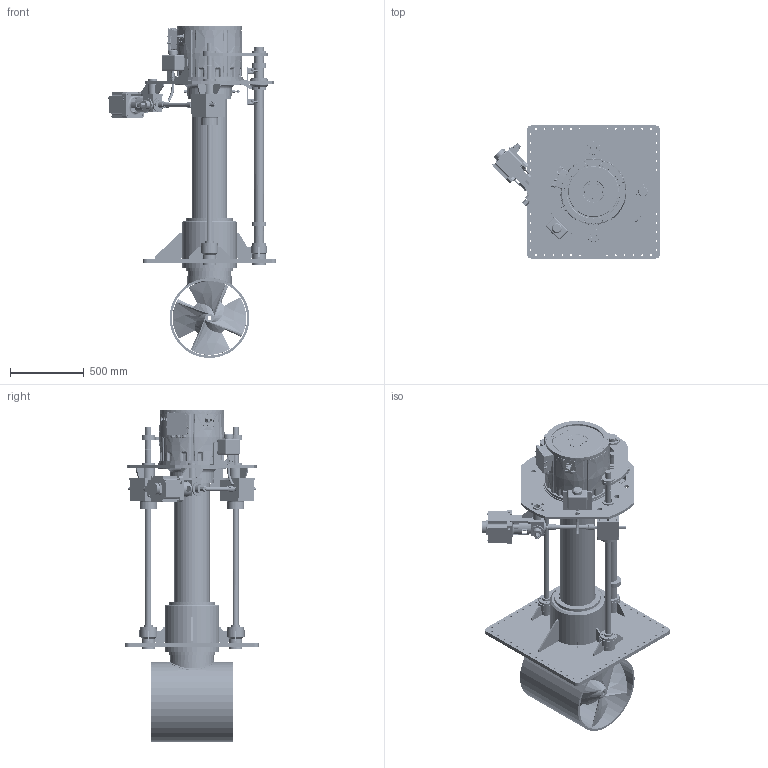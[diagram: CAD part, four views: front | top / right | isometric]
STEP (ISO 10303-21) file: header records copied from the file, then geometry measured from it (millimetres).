
FILE_DESCRIPTION(/* description */ (''),/* implementation_level */ '2;1');
FILE_NAME(/* name */ 'Q:\THRUSTERS\THRUSTER SALES & SUPPORT DOCS\THRUSTER Sales\E-V\E-0500-V\E-0500-V-RETRACTED.stp',/* time_stamp */ '2021-02-04T10:12:32+00:00',/* author */ ('Barney.Webborn'),/* organization */ (''),/* preprocessor_version */ 'ST-DEVELOPER v17.2',/* originating_system */ 'Autodesk Inventor 2019',/* authorisation */ '');
FILE_SCHEMA (('AUTOMOTIVE_DESIGN { 1 0 10303 214 3 1 1 }'));
Length unit declared in the file: millimetre
Products named in the file (1): E-0500-V_Shrinkwrap_1
Bounding box: 1136.39 x 900 x 2244.09 mm (x, y, z)
Volume: 169656054.1 mm3; surface area: 12727827.2 mm2
Topology: 7 solids, 7 shells, 7584 faces, 20523 edges, 13259 vertices
Faces by surface type: plane 3676, cylinder 2067, bspline 784, cone 586, torus 367, sphere 104
Full cylindrical faces by diameter (mm): 3 x6, 4.917 x6, 4.95 x4, 5.5 x4, 6 x6, 6.5 x2, 7 x8, 7.2 x2, 8 x8, 8.5 x9, 9 x4, 9.43 x7, 9.5 x2, 9.525 x1, 9.95 x6, 10 x12, 10.2 x2, 10.56 x2, 11.3 x1, 12 x12, 12.3 x3, 12.4 x12, 13 x164, 13.157 x1, 13.5 x4, 13.9 x2, 14.287 x1, 14.5 x2, 14.662 x2, 14.9 x1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
Entity records: 289306 total; most frequent: CARTESIAN_POINT 92686, ORIENTED_EDGE 40782, DIRECTION 38307, EDGE_CURVE 20391, AXIS2_PLACEMENT_3D 14141, VERTEX_POINT 13259, LINE 10025, VECTOR 10025
